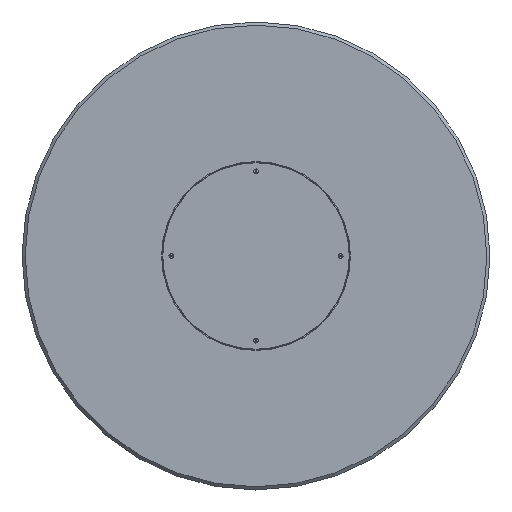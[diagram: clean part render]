
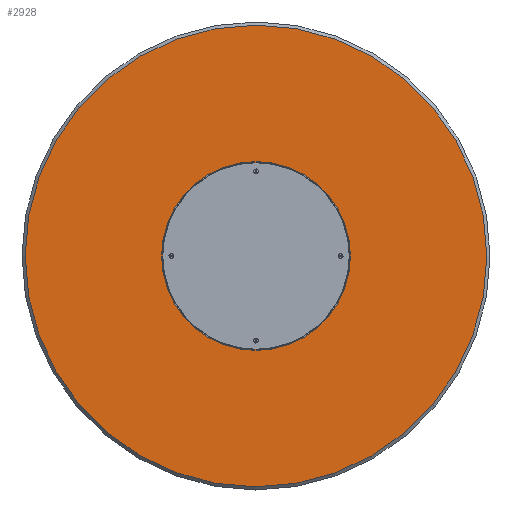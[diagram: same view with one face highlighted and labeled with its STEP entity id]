
A CAD part, front view. The second image highlights one B-rep face of the part: STEP entity #2928.
In plain terms, the highlighted planar face has unit normal (0, -1, 0).
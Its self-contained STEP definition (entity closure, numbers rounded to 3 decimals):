
#851 = EDGE_CURVE ( 'NONE', #1172, #5130, #4688, .T. ) ;
#1032 = FACE_OUTER_BOUND ( 'NONE', #5234, .T. ) ;
#1124 = AXIS2_PLACEMENT_3D ( 'NONE', #4890, #4476, #2388 ) ;
#1172 = VERTEX_POINT ( 'NONE', #3014 ) ;
#1289 = CIRCLE ( 'NONE', #4069, 587. ) ;
#1377 = DIRECTION ( 'NONE',  ( 0., -1., 0. ) ) ;
#1469 = DIRECTION ( 'NONE',  ( 0., 0., -1. ) ) ;
#1760 = DIRECTION ( 'NONE',  ( 0., 0., -1. ) ) ;
#2123 = EDGE_CURVE ( 'NONE', #5130, #1172, #1289, .T. ) ;
#2388 = DIRECTION ( 'NONE',  ( 0., 0., -1. ) ) ;
#2684 = CARTESIAN_POINT ( 'NONE',  ( 0., 0., 0. ) ) ;
#2925 = ORIENTED_EDGE ( 'NONE', *, *, #2123, .T. ) ;
#2928 = ADVANCED_FACE ( 'NONE', ( #1032 ), #5112, .T. ) ;
#3014 = CARTESIAN_POINT ( 'NONE',  ( 0., 0., 587. ) ) ;
#3148 = ORIENTED_EDGE ( 'NONE', *, *, #851, .T. ) ;
#3459 = CARTESIAN_POINT ( 'NONE',  ( 0., 0., 0. ) ) ;
#3628 = CARTESIAN_POINT ( 'NONE',  ( 0., 0., -587. ) ) ;
#4069 = AXIS2_PLACEMENT_3D ( 'NONE', #3459, #4754, #1469 ) ;
#4343 = AXIS2_PLACEMENT_3D ( 'NONE', #2684, #1377, #1760 ) ;
#4476 = DIRECTION ( 'NONE',  ( 0., -1., 0. ) ) ;
#4688 = CIRCLE ( 'NONE', #1124, 587. ) ;
#4754 = DIRECTION ( 'NONE',  ( 0., -1., 0. ) ) ;
#4890 = CARTESIAN_POINT ( 'NONE',  ( 0., 0., 0. ) ) ;
#5112 = PLANE ( 'NONE',  #4343 ) ;
#5130 = VERTEX_POINT ( 'NONE', #3628 ) ;
#5234 = EDGE_LOOP ( 'NONE', ( #3148, #2925 ) ) ;
